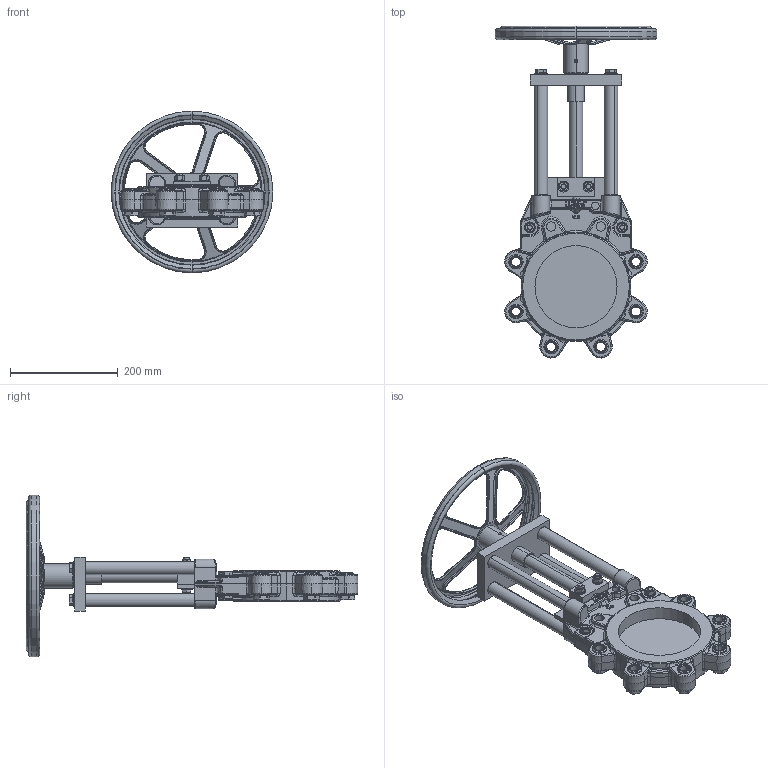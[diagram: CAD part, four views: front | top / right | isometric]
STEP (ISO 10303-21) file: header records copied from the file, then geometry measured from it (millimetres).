
FILE_DESCRIPTION (( 'STEP AP214' ), '1' );
FILE_NAME ('VLA DN 0150.STEP', '2022-09-20T06:57:06', ( '' ), ( '' ), 'SwSTEP 2.0', 'SolidWorks 2021', '' );
FILE_SCHEMA (( 'AUTOMOTIVE_DESIGN' ));
Length unit declared in the file: millimetre
Products named in the file (1): VLA DN 0150
Bounding box: 300 x 615.96 x 300 mm (x, y, z)
Volume: 3177228.3 mm3; surface area: 586699.7 mm2
Topology: 1 solids, 30 shells, 2104 faces, 5052 edges, 2977 vertices
Faces by surface type: cylinder 576, plane 566, bspline 454, cone 330, torus 174, sphere 4
Entity records: 103898 total; most frequent: CARTESIAN_POINT 35559, ORIENTED_EDGE 9886, DIRECTION 8951, EDGE_CURVE 4943, AXIS2_PLACEMENT_3D 3641, VERTEX_POINT 2977, EDGE_LOOP 2256, UNCERTAINTY_MEASURE_WITH_UNIT 2107
